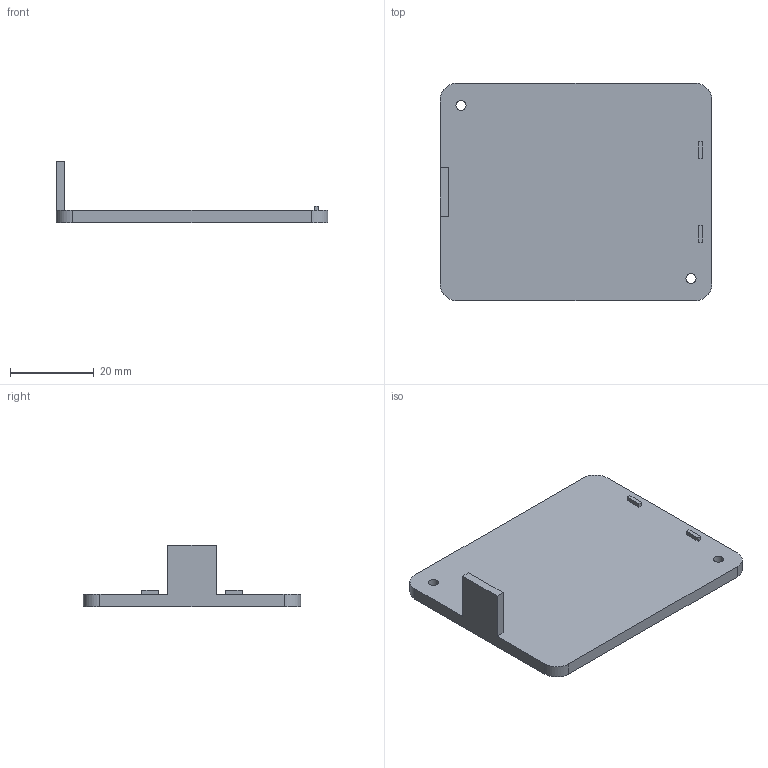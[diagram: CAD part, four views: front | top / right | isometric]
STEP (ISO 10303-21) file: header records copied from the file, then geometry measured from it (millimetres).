
FILE_DESCRIPTION(('Open CASCADE Model'),'2;1');
FILE_NAME('Open CASCADE Shape Model','2026-11-08T17:26:56',('Author'),( 'Open CASCADE'),'Open CASCADE STEP processor 7.8','Open CASCADE 7.8' ,'Unknown');
FILE_SCHEMA(('AUTOMOTIVE_DESIGN { 1 0 10303 214 1 1 1 1 }'));
Length unit declared in the file: millimetre
Products named in the file (1): Open CASCADE STEP translator 7.8 2
Bounding box: 65 x 52 x 14.8 mm (x, y, z)
Volume: 10343.1 mm3; surface area: 7777.4 mm2
Topology: 1 solids, 1 shells, 28 faces, 70 edges, 46 vertices
Faces by surface type: plane 20, cylinder 6, cone 2
Full cylindrical faces by diameter (mm): 2.4 x2
Entity records: 1772 total; most frequent: CARTESIAN_POINT 309, DIRECTION 278, LINE 184, VECTOR 184, ORIENTED_EDGE 140, PCURVE 140, DEFINITIONAL_REPRESENTATION 140, EDGE_CURVE 70
